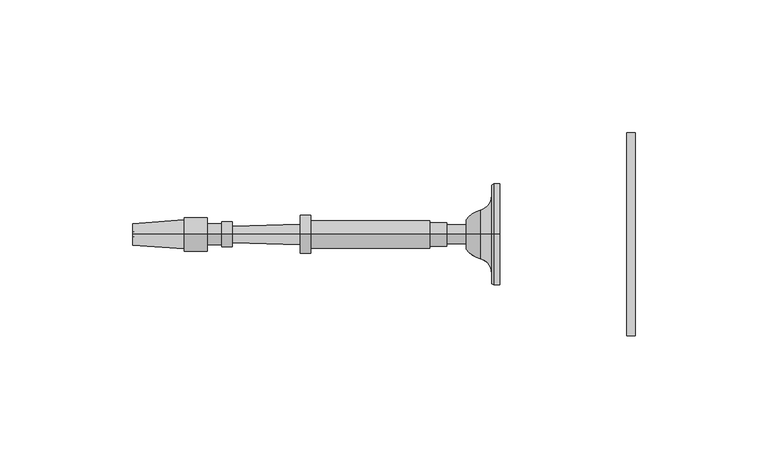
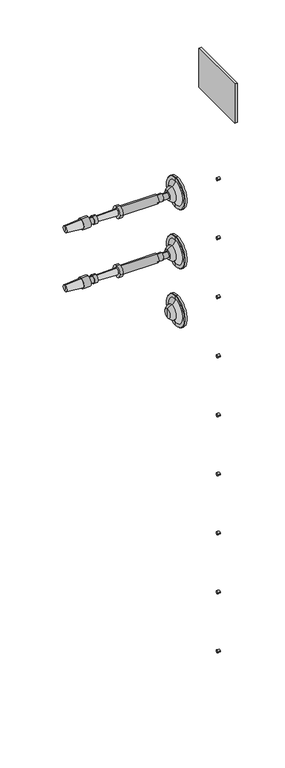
"""IFC4 building model written with IfcOpenShell, lengths in millimetres: railing geometry, RAILEASY CABLE RAILING CORNER TENSIONERS STAIR."""

from ifc_helpers import new_model, si_unit, point, frame, frame_2d, origin, place, context, project, spatial, polyline, circle_curve, ellipse_curve, trimmed, segment, composite_curve, outline, extrude, source, transform, mapped, element, save
from ifc_brep_helpers import plane_surface, cylinder_surface, revolved_surface, advanced_brep


def railing_b5b5f7ef(model_context):
    return source(origin(), model_context, "Body", "SolidModel", [
        extrude(outline(polyline([(4095.9188898, 16744.3866843), (4095.9188898, 16668.1866843), (4092.7438898, 16668.1866843), (4092.7438898, 16744.3866843), (4095.9188898, 16744.3866843)])), frame((0.0, 0.0, 33390.9789063), z_axis=(0.0, 0.0, 1.0), x_axis=(1.0, 0.0, 0.0)), (0.0, 0.0, 1.0), 50.8),
        extrude(outline(composite_curve([segment(trimmed(circle_curve(frame_2d((16706.2866843, 33295.7289062)), 1.5379197), [point((16707.824604, 33295.7289062))], [point((16704.7487645, 33295.7289062))], False, "CARTESIAN"), True, "CONTINUOUS"), segment(trimmed(circle_curve(frame_2d((16706.2866843, 33295.7289062)), 1.5379197), [point((16704.7487645, 33295.7289062))], [point((16707.824604, 33295.7289062))], False, "CARTESIAN"), True, "CONTINUOUS")], self_intersect=False)), frame((4092.7438898, 0.0, 0.0), z_axis=(1.0, 0.0, 0.0), x_axis=(0.0, 1.0, 0.0)), (0.0, 0.0, 1.0), 3.175),
        extrude(outline(composite_curve([segment(trimmed(circle_curve(frame_2d((16706.2866843, 33219.5289063)), 1.5379197), [point((16707.824604, 33219.5289063))], [point((16704.7487645, 33219.5289063))], False, "CARTESIAN"), True, "CONTINUOUS"), segment(trimmed(circle_curve(frame_2d((16706.2866843, 33219.5289063)), 1.5379197), [point((16704.7487645, 33219.5289063))], [point((16707.824604, 33219.5289063))], False, "CARTESIAN"), True, "CONTINUOUS")], self_intersect=False)), frame((4092.7438898, 0.0, 0.0), z_axis=(1.0, 0.0, 0.0), x_axis=(0.0, 1.0, 0.0)), (0.0, 0.0, 1.0), 3.175),
        extrude(outline(composite_curve([segment(trimmed(circle_curve(frame_2d((16706.2866843, 33143.3289062)), 1.5379197), [point((16707.824604, 33143.3289062))], [point((16704.7487645, 33143.3289062))], False, "CARTESIAN"), True, "CONTINUOUS"), segment(trimmed(circle_curve(frame_2d((16706.2866843, 33143.3289062)), 1.5379197), [point((16704.7487645, 33143.3289062))], [point((16707.824604, 33143.3289062))], False, "CARTESIAN"), True, "CONTINUOUS")], self_intersect=False)), frame((4092.7438898, 0.0, 0.0), z_axis=(1.0, 0.0, 0.0), x_axis=(0.0, 1.0, 0.0)), (0.0, 0.0, 1.0), 3.175),
        extrude(outline(composite_curve([segment(trimmed(circle_curve(frame_2d((16706.2866843, 33067.1289062)), 1.5379197), [point((16707.824604, 33067.1289062))], [point((16704.7487645, 33067.1289062))], False, "CARTESIAN"), True, "CONTINUOUS"), segment(trimmed(circle_curve(frame_2d((16706.2866843, 33067.1289062)), 1.5379197), [point((16704.7487645, 33067.1289062))], [point((16707.824604, 33067.1289062))], False, "CARTESIAN"), True, "CONTINUOUS")], self_intersect=False)), frame((4092.7438898, 0.0, 0.0), z_axis=(1.0, 0.0, 0.0), x_axis=(0.0, 1.0, 0.0)), (0.0, 0.0, 1.0), 3.175),
        extrude(outline(composite_curve([segment(trimmed(circle_curve(frame_2d((16706.2866843, 32990.9289062)), 1.5379197), [point((16707.824604, 32990.9289062))], [point((16704.7487645, 32990.9289062))], False, "CARTESIAN"), True, "CONTINUOUS"), segment(trimmed(circle_curve(frame_2d((16706.2866843, 32990.9289062)), 1.5379197), [point((16704.7487645, 32990.9289062))], [point((16707.824604, 32990.9289062))], False, "CARTESIAN"), True, "CONTINUOUS")], self_intersect=False)), frame((4092.7438898, 0.0, 0.0), z_axis=(1.0, 0.0, 0.0), x_axis=(0.0, 1.0, 0.0)), (0.0, 0.0, 1.0), 3.175),
        extrude(outline(composite_curve([segment(trimmed(circle_curve(frame_2d((16706.2866843, 32914.7289062)), 1.5379197), [point((16707.824604, 32914.7289062))], [point((16704.7487645, 32914.7289062))], False, "CARTESIAN"), True, "CONTINUOUS"), segment(trimmed(circle_curve(frame_2d((16706.2866843, 32914.7289062)), 1.5379197), [point((16704.7487645, 32914.7289062))], [point((16707.824604, 32914.7289062))], False, "CARTESIAN"), True, "CONTINUOUS")], self_intersect=False)), frame((4092.7438898, 0.0, 0.0), z_axis=(1.0, 0.0, 0.0), x_axis=(0.0, 1.0, 0.0)), (0.0, 0.0, 1.0), 3.175),
        extrude(outline(composite_curve([segment(trimmed(circle_curve(frame_2d((16706.2866843, 32838.5289063)), 1.5379197), [point((16707.824604, 32838.5289063))], [point((16704.7487645, 32838.5289063))], False, "CARTESIAN"), True, "CONTINUOUS"), segment(trimmed(circle_curve(frame_2d((16706.2866843, 32838.5289063)), 1.5379197), [point((16704.7487645, 32838.5289063))], [point((16707.824604, 32838.5289063))], False, "CARTESIAN"), True, "CONTINUOUS")], self_intersect=False)), frame((4092.7438898, 0.0, 0.0), z_axis=(1.0, 0.0, 0.0), x_axis=(0.0, 1.0, 0.0)), (0.0, 0.0, 1.0), 3.175),
        extrude(outline(composite_curve([segment(trimmed(circle_curve(frame_2d((16706.2866843, 32762.3289062)), 1.5379197), [point((16707.824604, 32762.3289062))], [point((16704.7487645, 32762.3289062))], False, "CARTESIAN"), True, "CONTINUOUS"), segment(trimmed(circle_curve(frame_2d((16706.2866843, 32762.3289062)), 1.5379197), [point((16704.7487645, 32762.3289062))], [point((16707.824604, 32762.3289062))], False, "CARTESIAN"), True, "CONTINUOUS")], self_intersect=False)), frame((4092.7438898, 0.0, 0.0), z_axis=(1.0, 0.0, 0.0), x_axis=(0.0, 1.0, 0.0)), (0.0, 0.0, 1.0), 3.175),
        extrude(outline(composite_curve([segment(trimmed(circle_curve(frame_2d((16706.2866843, 32686.1289062)), 1.5379197), [point((16707.824604, 32686.1289062))], [point((16704.7487645, 32686.1289062))], False, "CARTESIAN"), True, "CONTINUOUS"), segment(trimmed(circle_curve(frame_2d((16706.2866843, 32686.1289062)), 1.5379197), [point((16704.7487645, 32686.1289062))], [point((16707.824604, 32686.1289062))], False, "CARTESIAN"), True, "CONTINUOUS")], self_intersect=False)), frame((4092.7438898, 0.0, 0.0), z_axis=(1.0, 0.0, 0.0), x_axis=(0.0, 1.0, 0.0)), (0.0, 0.0, 1.0), 3.175),
        advanced_brep(
        [(4045.1015906, 16706.2866843, 33296.0001631), (4045.1015906, 16706.2866843, 33315.0501631), (4045.1015906, 16706.2866843, 33276.9501631), (4032.408954, 16706.2866843, 33290.4769785), (4032.408954, 16706.2866843, 33301.5233478), (4032.408954, 16706.2866843, 33296.0001631), (4037.6850504, 16706.2866843, 33286.8720381), (4037.6850504, 16706.2866843, 33305.1282881), (4042.0506754, 16706.2866843, 33281.2458254), (4042.0506754, 16706.2866843, 33310.7545009), (4042.0506754, 16706.2866843, 33277.3762941), (4042.0506754, 16706.2866843, 33314.6240321), (4042.7203406, 16706.2866843, 33276.9501631), (4042.7203406, 16706.2866843, 33315.0501631)],
        [
            (0, 1),
            (1, 2, circle_curve(frame((4045.1015906, 16706.2866843, 33296.0001631), z_axis=(1.0, 0.0, 0.0), x_axis=(0.0, 0.0, 1.0)), 19.05)),
            (2, 0),
            (2, 1, circle_curve(frame((4045.1015906, 16706.2866843, 33296.0001631), z_axis=(1.0, 0.0, 0.0), x_axis=(0.0, 0.0, 1.0)), 19.05)),
            (3, 4, circle_curve(frame((4032.408954, 16706.2866843, 33296.0001631), z_axis=(-1.0, 0.0, 0.0), x_axis=(0.0, 0.0, 1.0)), 5.5231846)),
            (4, 5),
            (5, 3),
            (4, 3, circle_curve(frame((4032.408954, 16706.2866843, 33296.0001631), z_axis=(-1.0, 0.0, 0.0), x_axis=(0.0, 0.0, 1.0)), 5.5231846)),
            (6, 7, circle_curve(frame((4037.6850504, 16706.2866843, 33296.0001631), z_axis=(-1.0, 0.0, 0.0), x_axis=(0.0, 0.0, 1.0)), 9.128125)),
            (7, 4, circle_curve(frame((4040.0094591, 16706.2866843, 33296.0628958), z_axis=(0.0, -1.0, 0.0), x_axis=(-1.0, 0.0, 0.0)), 9.3586438)),
            (3, 6, circle_curve(frame((4040.0094591, 16706.2866843, 33295.9374304), z_axis=(0.0, -1.0, 0.0), x_axis=(-1.0, 0.0, 0.0)), 9.3586438)),
            (7, 6, circle_curve(frame((4037.6850504, 16706.2866843, 33296.0001631), z_axis=(-1.0, 0.0, 0.0), x_axis=(0.0, 0.0, 1.0)), 9.128125)),
            (8, 9, circle_curve(frame((4042.0506754, 16706.2866843, 33296.0001631), z_axis=(-1.0, 0.0, 0.0), x_axis=(0.0, 0.0, 1.0)), 14.7543378)),
            (9, 7, circle_curve(frame((4036.2424634, 16706.2866843, 33310.7545009), z_axis=(0.0, 1.0, 0.0), x_axis=(-1.0, 0.0, 0.0)), 5.8082121)),
            (6, 8, circle_curve(frame((4036.2424634, 16706.2866843, 33281.2458254), z_axis=(0.0, 1.0, 0.0), x_axis=(-1.0, 0.0, 0.0)), 5.8082121)),
            (9, 8, circle_curve(frame((4042.0506754, 16706.2866843, 33296.0001631), z_axis=(-1.0, 0.0, 0.0), x_axis=(0.0, 0.0, 1.0)), 14.7543378)),
            (10, 11, circle_curve(frame((4042.0506754, 16706.2866843, 33296.0001631), z_axis=(-1.0, 0.0, 0.0), x_axis=(0.0, 0.0, 1.0)), 18.623869)),
            (11, 9),
            (8, 10),
            (11, 10, circle_curve(frame((4042.0506754, 16706.2866843, 33296.0001631), z_axis=(-1.0, 0.0, 0.0), x_axis=(0.0, 0.0, 1.0)), 18.623869)),
            (12, 13, circle_curve(frame((4042.7203406, 16706.2866843, 33296.0001631), z_axis=(-1.0, 0.0, 0.0), x_axis=(0.0, 0.0, 1.0)), 19.05)),
            (13, 11),
            (10, 12),
            (13, 12, circle_curve(frame((4042.7203406, 16706.2866843, 33296.0001631), z_axis=(-1.0, 0.0, 0.0), x_axis=(0.0, 0.0, 1.0)), 19.05)),
            (1, 13),
            (12, 2),
        ],
        [
            plane_surface(frame((4045.1015906, 16706.2866843, 33296.0001631), z_axis=(1.0, 0.0, 0.0), x_axis=(0.0, 0.0, 1.0))),
            plane_surface(frame((4032.408954, 16706.2866843, 33296.0001631), z_axis=(-1.0, 0.0, 0.0), x_axis=(0.0, 0.0, 1.0))),
            revolved_surface(trimmed(ellipse_curve(frame((4040.0094591, 16706.2866843, 33296.0628958), z_axis=(0.0, 1.0, 0.0), x_axis=(-1.0, 0.0, 0.0)), 9.3586438, 9.3586438), [point((4032.408954, 16706.2866843, 33301.5233478))], [point((4037.6850504, 16706.2866843, 33305.1282881))], True, "CARTESIAN"), (4045.1015906, 16706.2866843, 33296.0001631), (1.0, 0.0, 0.0)),
            revolved_surface(trimmed(ellipse_curve(frame((4036.2424634, 16706.2866843, 33310.7545009), z_axis=(0.0, -1.0, 0.0), x_axis=(-1.0, 0.0, 0.0)), 5.8082121, 5.8082121), [point((4037.6850504, 16706.2866843, 33305.1282881))], [point((4042.0506754, 16706.2866843, 33310.7545009))], True, "CARTESIAN"), (4045.1015906, 16706.2866843, 33296.0001631), (1.0, 0.0, 0.0)),
            plane_surface(frame((4042.0506754, 16706.2866843, 33296.0001631), z_axis=(-1.0, 0.0, 0.0), x_axis=(0.0, 0.0, 1.0))),
            revolved_surface(polyline([(4042.0506754, 16706.2866843, 33314.6240321), (4042.7203406, 16706.2866843, 33315.0501631)]), (4045.1015906, 16706.2866843, 33296.0001631), (1.0, 0.0, 0.0)),
            cylinder_surface(frame((4045.1015906, 16706.2866843, 33296.0001631), z_axis=(1.0, 0.0, 0.0), x_axis=(0.0, 0.0, 1.0)), 19.05),
        ],
        [
            (0, [[1, 2, 3]]),
            (0, [[-3, 4, -1]]),
            (1, [[5, 6, 7]]),
            (1, [[8, -7, -6]]),
            (2, [[9, 10, -5, 11]]),
            (2, [[12, -11, -8, -10]]),
            (3, [[13, 14, -9, 15]]),
            (3, [[16, -15, -12, -14]]),
            (4, [[17, 18, -13, 19]]),
            (4, [[20, -19, -16, -18]]),
            (5, [[21, 22, -17, 23]]),
            (5, [[24, -23, -20, -22]]),
            (6, [[-2, 25, -21, 26]]),
            (6, [[-4, -26, -24, -25]]),
        ],
    ),
        advanced_brep(
        [(4032.408954, 16706.2866843, 33292.4282881), (4032.408954, 16706.2866843, 33296.0001631), (4032.408954, 16706.2866843, 33299.5720381), (3907.4650648, 16706.2866843, 33296.0001631), (3907.1694004, 16706.2866843, 33291.9757028), (3907.1694004, 16706.2866843, 33300.0246235), (3926.5127644, 16706.2866843, 33290.5546072), (3926.5127644, 16706.2866843, 33301.445719), (3926.5127644, 16706.2866843, 33289.6616385), (3926.5127644, 16706.2866843, 33302.3386877), (3935.1447956, 16706.2866843, 33289.6616385), (3935.1447956, 16706.2866843, 33302.3386877), (3935.1447956, 16706.2866843, 33292.0428885), (3935.1447956, 16706.2866843, 33299.9574377), (3940.5026081, 16706.2866843, 33292.0428885), (3940.5026081, 16706.2866843, 33299.9574377), (3940.5026081, 16706.2866843, 33291.2491385), (3940.5026081, 16706.2866843, 33300.7511877), (3944.5705769, 16706.2866843, 33291.2491385), (3944.5705769, 16706.2866843, 33300.7511877), (3944.614664, 16706.2866843, 33292.8360262), (3944.614664, 16706.2866843, 33299.1643), (3970.0048672, 16706.2866843, 33292.1306319), (3970.0048672, 16706.2866843, 33299.8696944), (3970.0048672, 16706.2866843, 33288.8564131), (3970.0048672, 16706.2866843, 33303.1439131), (3973.9736172, 16706.2866843, 33288.8564131), (3973.9736172, 16706.2866843, 33303.1439131), (3973.9736172, 16706.2866843, 33290.8407881), (3973.9736172, 16706.2866843, 33301.1595381), (4018.7212735, 16706.2866843, 33290.8407881), (4018.7212735, 16706.2866843, 33301.1595381), (4018.7212735, 16706.2866843, 33291.6345381), (4018.7212735, 16706.2866843, 33300.3657881), (4025.0712735, 16706.2866843, 33291.6345381), (4025.0712735, 16706.2866843, 33300.3657881), (4025.0712735, 16706.2866843, 33292.4282881), (4025.0712735, 16706.2866843, 33299.5720381)],
        [
            (0, 1),
            (1, 2),
            (2, 0, circle_curve(frame((4032.408954, 16706.2866843, 33296.0001631), z_axis=(1.0, 0.0, 0.0), x_axis=(0.0, 0.0, 1.0000000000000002)), 3.571875)),
            (0, 2, circle_curve(frame((4032.408954, 16706.2866843, 33296.0001631), z_axis=(1.0, 0.0, 0.0), x_axis=(0.0, 0.0, 1.0000000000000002)), 3.571875)),
            (3, 4),
            (4, 5, circle_curve(frame((3907.1694004, 16706.2866843, 33296.0001631), z_axis=(-1.0, 0.0, 0.0), x_axis=(0.0, 0.0, 1.0000000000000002)), 4.0244604)),
            (5, 3),
            (5, 4, circle_curve(frame((3907.1694004, 16706.2866843, 33296.0001631), z_axis=(-1.0, 0.0, 0.0), x_axis=(0.0, 0.0, 1.0000000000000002)), 4.0244604)),
            (4, 6),
            (6, 7, circle_curve(frame((3926.5127644, 16706.2866843, 33296.0001631), z_axis=(-1.0, 0.0, 0.0), x_axis=(0.0, 0.0, 1.0000000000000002)), 5.4455559)),
            (7, 5),
            (7, 6, circle_curve(frame((3926.5127644, 16706.2866843, 33296.0001631), z_axis=(-1.0, 0.0, 0.0), x_axis=(0.0, 0.0, 1.0000000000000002)), 5.4455559)),
            (6, 8),
            (8, 9, circle_curve(frame((3926.5127644, 16706.2866843, 33296.0001631), z_axis=(-1.0, 0.0, 0.0), x_axis=(0.0, 0.0, 1.0000000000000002)), 6.3385246)),
            (9, 7),
            (9, 8, circle_curve(frame((3926.5127644, 16706.2866843, 33296.0001631), z_axis=(-1.0, 0.0, 0.0), x_axis=(0.0, 0.0, 1.0000000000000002)), 6.3385246)),
            (8, 10),
            (10, 11, circle_curve(frame((3935.1447956, 16706.2866843, 33296.0001631), z_axis=(-1.0, 0.0, 0.0), x_axis=(0.0, 0.0, 1.0000000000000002)), 6.3385246)),
            (11, 9),
            (11, 10, circle_curve(frame((3935.1447956, 16706.2866843, 33296.0001631), z_axis=(-1.0, 0.0, 0.0), x_axis=(0.0, 0.0, 1.0000000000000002)), 6.3385246)),
            (10, 12),
            (12, 13, circle_curve(frame((3935.1447956, 16706.2866843, 33296.0001631), z_axis=(-1.0, 0.0, 0.0), x_axis=(0.0, 0.0, 1.0000000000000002)), 3.9572746)),
            (13, 11),
            (13, 12, circle_curve(frame((3935.1447956, 16706.2866843, 33296.0001631), z_axis=(-1.0, 0.0, 0.0), x_axis=(0.0, 0.0, 1.0000000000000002)), 3.9572746)),
            (12, 14),
            (14, 15, circle_curve(frame((3940.5026081, 16706.2866843, 33296.0001631), z_axis=(-1.0, 0.0, 0.0), x_axis=(0.0, 0.0, 1.0000000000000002)), 3.9572746)),
            (15, 13),
            (15, 14, circle_curve(frame((3940.5026081, 16706.2866843, 33296.0001631), z_axis=(-1.0, 0.0, 0.0), x_axis=(0.0, 0.0, 1.0000000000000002)), 3.9572746)),
            (14, 16),
            (16, 17, circle_curve(frame((3940.5026081, 16706.2866843, 33296.0001631), z_axis=(-1.0, 0.0, 0.0), x_axis=(0.0, 0.0, 1.0000000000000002)), 4.7510246)),
            (17, 15),
            (17, 16, circle_curve(frame((3940.5026081, 16706.2866843, 33296.0001631), z_axis=(-1.0, 0.0, 0.0), x_axis=(0.0, 0.0, 1.0000000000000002)), 4.7510246)),
            (16, 18),
            (18, 19, circle_curve(frame((3944.5705769, 16706.2866843, 33296.0001631), z_axis=(-1.0, 0.0, 0.0), x_axis=(0.0, 0.0, 1.0000000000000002)), 4.7510246)),
            (19, 17),
            (19, 18, circle_curve(frame((3944.5705769, 16706.2866843, 33296.0001631), z_axis=(-1.0, 0.0, 0.0), x_axis=(0.0, 0.0, 1.0000000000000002)), 4.7510246)),
            (18, 20),
            (20, 21, circle_curve(frame((3944.614664, 16706.2866843, 33296.0001631), z_axis=(-1.0, 0.0, 0.0), x_axis=(0.0, 0.0, 1.0000000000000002)), 3.1641369)),
            (21, 19),
            (21, 20, circle_curve(frame((3944.614664, 16706.2866843, 33296.0001631), z_axis=(-1.0, 0.0, 0.0), x_axis=(0.0, 0.0, 1.0000000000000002)), 3.1641369)),
            (20, 22),
            (22, 23, circle_curve(frame((3970.0048672, 16706.2866843, 33296.0001631), z_axis=(-1.0, 0.0, 0.0), x_axis=(0.0, 0.0, 1.0000000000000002)), 3.8695313)),
            (23, 21),
            (23, 22, circle_curve(frame((3970.0048672, 16706.2866843, 33296.0001631), z_axis=(-1.0, 0.0, 0.0), x_axis=(0.0, 0.0, 1.0000000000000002)), 3.8695313)),
            (22, 24),
            (24, 25, circle_curve(frame((3970.0048672, 16706.2866843, 33296.0001631), z_axis=(-1.0, 0.0, 0.0), x_axis=(0.0, 0.0, 1.0000000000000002)), 7.14375)),
            (25, 23),
            (25, 24, circle_curve(frame((3970.0048672, 16706.2866843, 33296.0001631), z_axis=(-1.0, 0.0, 0.0), x_axis=(0.0, 0.0, 1.0000000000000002)), 7.14375)),
            (24, 26),
            (26, 27, circle_curve(frame((3973.9736172, 16706.2866843, 33296.0001631), z_axis=(-1.0, 0.0, 0.0), x_axis=(0.0, 0.0, 1.0000000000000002)), 7.14375)),
            (27, 25),
            (27, 26, circle_curve(frame((3973.9736172, 16706.2866843, 33296.0001631), z_axis=(-1.0, 0.0, 0.0), x_axis=(0.0, 0.0, 1.0000000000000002)), 7.14375)),
            (26, 28),
            (28, 29, circle_curve(frame((3973.9736172, 16706.2866843, 33296.0001631), z_axis=(-1.0, 0.0, 0.0), x_axis=(0.0, 0.0, 1.0000000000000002)), 5.159375)),
            (29, 27),
            (29, 28, circle_curve(frame((3973.9736172, 16706.2866843, 33296.0001631), z_axis=(-1.0, 0.0, 0.0), x_axis=(0.0, 0.0, 1.0000000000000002)), 5.159375)),
            (28, 30),
            (30, 31, circle_curve(frame((4018.7212735, 16706.2866843, 33296.0001631), z_axis=(-1.0, 0.0, 0.0), x_axis=(0.0, 0.0, 1.0000000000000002)), 5.159375)),
            (31, 29),
            (31, 30, circle_curve(frame((4018.7212735, 16706.2866843, 33296.0001631), z_axis=(-1.0, 0.0, 0.0), x_axis=(0.0, 0.0, 1.0000000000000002)), 5.159375)),
            (30, 32),
            (32, 33, circle_curve(frame((4018.7212735, 16706.2866843, 33296.0001631), z_axis=(-1.0, 0.0, 0.0), x_axis=(0.0, 0.0, 1.0000000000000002)), 4.365625)),
            (33, 31),
            (33, 32, circle_curve(frame((4018.7212735, 16706.2866843, 33296.0001631), z_axis=(-1.0, 0.0, 0.0), x_axis=(0.0, 0.0, 1.0000000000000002)), 4.365625)),
            (32, 34),
            (34, 35, circle_curve(frame((4025.0712735, 16706.2866843, 33296.0001631), z_axis=(-1.0, 0.0, 0.0), x_axis=(0.0, 0.0, 1.0000000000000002)), 4.365625)),
            (35, 33),
            (35, 34, circle_curve(frame((4025.0712735, 16706.2866843, 33296.0001631), z_axis=(-1.0, 0.0, 0.0), x_axis=(0.0, 0.0, 1.0000000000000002)), 4.365625)),
            (34, 36),
            (36, 37, circle_curve(frame((4025.0712735, 16706.2866843, 33296.0001631), z_axis=(-1.0, 0.0, 0.0), x_axis=(0.0, 0.0, 1.0000000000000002)), 3.571875)),
            (37, 35),
            (37, 36, circle_curve(frame((4025.0712735, 16706.2866843, 33296.0001631), z_axis=(-1.0, 0.0, 0.0), x_axis=(0.0, 0.0, 1.0000000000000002)), 3.571875)),
            (36, 0),
            (2, 37),
        ],
        [
            plane_surface(frame((4032.408954, 16706.2866843, 33296.0001631), z_axis=(1.0, 0.0, 0.0), x_axis=(0.0, 0.0, 1.0))),
            revolved_surface(polyline([(3907.1694004, 16706.2866843, 33300.0246235), (3907.4650648, 16706.2866843, 33296.0001631)]), (3907.4650648, 16706.2866843, 33296.0001631), (-1.0, 0.0, 0.0)),
            revolved_surface(polyline([(3926.5127644, 16706.2866843, 33301.445719), (3907.1694004, 16706.2866843, 33300.0246235)]), (3907.4650648, 16706.2866843, 33296.0001631), (-1.0, 0.0, 0.0)),
            plane_surface(frame((3926.5127644, 16706.2866843, 33296.0001631), z_axis=(-1.0, 0.0, 0.0), x_axis=(0.0, 0.0, 1.0))),
            cylinder_surface(frame((3907.4650648, 16706.2866843, 33296.0001631), z_axis=(-1.0, 0.0, 0.0), x_axis=(0.0, 0.0, 1.0000000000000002)), 6.3385246),
            plane_surface(frame((3935.1447956, 16706.2866843, 33296.0001631), z_axis=(1.0, 0.0, 0.0), x_axis=(0.0, 0.0, 1.0))),
            cylinder_surface(frame((3907.4650648, 16706.2866843, 33296.0001631), z_axis=(-1.0, 0.0, 0.0), x_axis=(0.0, 0.0, 1.0000000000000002)), 3.9572746),
            plane_surface(frame((3940.5026081, 16706.2866843, 33296.0001631), z_axis=(-1.0, 0.0, 0.0), x_axis=(0.0, 0.0, 1.0))),
            cylinder_surface(frame((3907.4650648, 16706.2866843, 33296.0001631), z_axis=(-1.0, 0.0, 0.0), x_axis=(0.0, 0.0, 1.0000000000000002)), 4.7510246),
            plane_surface(frame((3944.614664, 16706.2866843, 33296.0001631), z_axis=(1.0, 0.0, 0.0), x_axis=(0.0, 0.0, 1.0))),
            revolved_surface(polyline([(3970.0048672, 16706.2866843, 33299.8696944), (3944.614664, 16706.2866843, 33299.1643)]), (3907.4650648, 16706.2866843, 33296.0001631), (-1.0, 0.0, 0.0)),
            plane_surface(frame((3970.0048672, 16706.2866843, 33296.0001631), z_axis=(-1.0, 0.0, 0.0), x_axis=(0.0, 0.0, 1.0))),
            cylinder_surface(frame((3907.4650648, 16706.2866843, 33296.0001631), z_axis=(-1.0, 0.0, 0.0), x_axis=(0.0, 0.0, 1.0000000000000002)), 7.14375),
            plane_surface(frame((3973.9736172, 16706.2866843, 33296.0001631), z_axis=(1.0, 0.0, 0.0), x_axis=(0.0, 0.0, 1.0))),
            cylinder_surface(frame((3907.4650648, 16706.2866843, 33296.0001631), z_axis=(-1.0, 0.0, 0.0), x_axis=(0.0, 0.0, 1.0000000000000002)), 5.159375),
            plane_surface(frame((4018.7212735, 16706.2866843, 33296.0001631), z_axis=(1.0, 0.0, 0.0), x_axis=(0.0, 0.0, 1.0))),
            cylinder_surface(frame((3907.4650648, 16706.2866843, 33296.0001631), z_axis=(-1.0, 0.0, 0.0), x_axis=(0.0, 0.0, 1.0000000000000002)), 4.365625),
            plane_surface(frame((4025.0712735, 16706.2866843, 33296.0001631), z_axis=(1.0, 0.0, 0.0), x_axis=(0.0, 0.0, 1.0))),
            cylinder_surface(frame((3907.4650648, 16706.2866843, 33296.0001631), z_axis=(-1.0, 0.0, 0.0), x_axis=(0.0, 0.0, 1.0000000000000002)), 3.571875),
        ],
        [
            (0, [[1, 2, 3]]),
            (0, [[-2, -1, 4]]),
            (1, [[5, 6, 7]]),
            (1, [[-7, 8, -5]]),
            (2, [[9, 10, 11, -6]]),
            (2, [[-11, 12, -9, -8]]),
            (3, [[13, 14, 15, -10]]),
            (3, [[-15, 16, -13, -12]]),
            (4, [[17, 18, 19, -14]]),
            (4, [[-19, 20, -17, -16]]),
            (5, [[21, 22, 23, -18]]),
            (5, [[-23, 24, -21, -20]]),
            (6, [[25, 26, 27, -22]]),
            (6, [[-27, 28, -25, -24]]),
            (7, [[29, 30, 31, -26]]),
            (7, [[-31, 32, -29, -28]]),
            (8, [[33, 34, 35, -30]]),
            (8, [[-35, 36, -33, -32]]),
            (9, [[37, 38, 39, -34]]),
            (9, [[-39, 40, -37, -36]]),
            (10, [[41, 42, 43, -38]]),
            (10, [[-43, 44, -41, -40]]),
            (11, [[45, 46, 47, -42]]),
            (11, [[-47, 48, -45, -44]]),
            (12, [[49, 50, 51, -46]]),
            (12, [[-51, 52, -49, -48]]),
            (13, [[53, 54, 55, -50]]),
            (13, [[-55, 56, -53, -52]]),
            (14, [[57, 58, 59, -54]]),
            (14, [[-59, 60, -57, -56]]),
            (15, [[61, 62, 63, -58]]),
            (15, [[-63, 64, -61, -60]]),
            (16, [[65, 66, 67, -62]]),
            (16, [[-67, 68, -65, -64]]),
            (17, [[69, 70, 71, -66]]),
            (17, [[-71, 72, -69, -68]]),
            (18, [[73, -3, 74, -70]]),
            (18, [[-74, -4, -73, -72]]),
        ],
    ),
        advanced_brep(
        [(4045.1015906, 16706.2866843, 33219.8001631), (4045.1015906, 16706.2866843, 33238.8501631), (4045.1015906, 16706.2866843, 33200.7501631), (4032.408954, 16706.2866843, 33214.2769785), (4032.408954, 16706.2866843, 33225.3233478), (4032.408954, 16706.2866843, 33219.8001631), (4037.6850504, 16706.2866843, 33210.6720381), (4037.6850504, 16706.2866843, 33228.9282881), (4042.0506754, 16706.2866843, 33205.0458254), (4042.0506754, 16706.2866843, 33234.5545009), (4042.0506754, 16706.2866843, 33201.1762941), (4042.0506754, 16706.2866843, 33238.4240321), (4042.7203406, 16706.2866843, 33200.7501631), (4042.7203406, 16706.2866843, 33238.8501631)],
        [
            (0, 1),
            (1, 2, circle_curve(frame((4045.1015906, 16706.2866843, 33219.8001631), z_axis=(1.0, 0.0, 0.0), x_axis=(0.0, 0.0, 1.0)), 19.05)),
            (2, 0),
            (2, 1, circle_curve(frame((4045.1015906, 16706.2866843, 33219.8001631), z_axis=(1.0, 0.0, 0.0), x_axis=(0.0, 0.0, 1.0)), 19.05)),
            (3, 4, circle_curve(frame((4032.408954, 16706.2866843, 33219.8001631), z_axis=(-1.0, 0.0, 0.0), x_axis=(0.0, 0.0, 1.0)), 5.5231846)),
            (4, 5),
            (5, 3),
            (4, 3, circle_curve(frame((4032.408954, 16706.2866843, 33219.8001631), z_axis=(-1.0, 0.0, 0.0), x_axis=(0.0, 0.0, 1.0)), 5.5231846)),
            (6, 7, circle_curve(frame((4037.6850504, 16706.2866843, 33219.8001631), z_axis=(-1.0, 0.0, 0.0), x_axis=(0.0, 0.0, 1.0)), 9.128125)),
            (7, 4, circle_curve(frame((4040.0094591, 16706.2866843, 33219.8628958), z_axis=(0.0, -1.0, 0.0), x_axis=(-1.0, 0.0, 0.0)), 9.3586438)),
            (3, 6, circle_curve(frame((4040.0094591, 16706.2866843, 33219.7374304), z_axis=(0.0, -1.0, 0.0), x_axis=(-1.0, 0.0, 0.0)), 9.3586438)),
            (7, 6, circle_curve(frame((4037.6850504, 16706.2866843, 33219.8001631), z_axis=(-1.0, 0.0, 0.0), x_axis=(0.0, 0.0, 1.0)), 9.128125)),
            (8, 9, circle_curve(frame((4042.0506754, 16706.2866843, 33219.8001631), z_axis=(-1.0, 0.0, 0.0), x_axis=(0.0, 0.0, 1.0)), 14.7543378)),
            (9, 7, circle_curve(frame((4036.2424634, 16706.2866843, 33234.5545009), z_axis=(0.0, 1.0, 0.0), x_axis=(-1.0, 0.0, 0.0)), 5.8082121)),
            (6, 8, circle_curve(frame((4036.2424634, 16706.2866843, 33205.0458254), z_axis=(0.0, 1.0, 0.0), x_axis=(-1.0, 0.0, 0.0)), 5.8082121)),
            (9, 8, circle_curve(frame((4042.0506754, 16706.2866843, 33219.8001631), z_axis=(-1.0, 0.0, 0.0), x_axis=(0.0, 0.0, 1.0)), 14.7543378)),
            (10, 11, circle_curve(frame((4042.0506754, 16706.2866843, 33219.8001631), z_axis=(-1.0, 0.0, 0.0), x_axis=(0.0, 0.0, 1.0)), 18.623869)),
            (11, 9),
            (8, 10),
            (11, 10, circle_curve(frame((4042.0506754, 16706.2866843, 33219.8001631), z_axis=(-1.0, 0.0, 0.0), x_axis=(0.0, 0.0, 1.0)), 18.623869)),
            (12, 13, circle_curve(frame((4042.7203406, 16706.2866843, 33219.8001631), z_axis=(-1.0, 0.0, 0.0), x_axis=(0.0, 0.0, 1.0)), 19.05)),
            (13, 11),
            (10, 12),
            (13, 12, circle_curve(frame((4042.7203406, 16706.2866843, 33219.8001631), z_axis=(-1.0, 0.0, 0.0), x_axis=(0.0, 0.0, 1.0)), 19.05)),
            (1, 13),
            (12, 2),
        ],
        [
            plane_surface(frame((4045.1015906, 16706.2866843, 33219.8001631), z_axis=(1.0, 0.0, 0.0), x_axis=(0.0, 0.0, 1.0))),
            plane_surface(frame((4032.408954, 16706.2866843, 33219.8001631), z_axis=(-1.0, 0.0, 0.0), x_axis=(0.0, 0.0, 1.0))),
            revolved_surface(trimmed(ellipse_curve(frame((4040.0094591, 16706.2866843, 33219.8628958), z_axis=(0.0, 1.0, 0.0), x_axis=(-1.0, 0.0, 0.0)), 9.3586438, 9.3586438), [point((4032.408954, 16706.2866843, 33225.3233478))], [point((4037.6850504, 16706.2866843, 33228.9282881))], True, "CARTESIAN"), (4045.1015906, 16706.2866843, 33219.8001631), (1.0, 0.0, 0.0)),
            revolved_surface(trimmed(ellipse_curve(frame((4036.2424634, 16706.2866843, 33234.5545009), z_axis=(0.0, -1.0, 0.0), x_axis=(-1.0, 0.0, 0.0)), 5.8082121, 5.8082121), [point((4037.6850504, 16706.2866843, 33228.9282881))], [point((4042.0506754, 16706.2866843, 33234.5545009))], True, "CARTESIAN"), (4045.1015906, 16706.2866843, 33219.8001631), (1.0, 0.0, 0.0)),
            plane_surface(frame((4042.0506754, 16706.2866843, 33219.8001631), z_axis=(-1.0, 0.0, 0.0), x_axis=(0.0, 0.0, 1.0))),
            revolved_surface(polyline([(4042.0506754, 16706.2866843, 33238.4240321), (4042.7203406, 16706.2866843, 33238.8501631)]), (4045.1015906, 16706.2866843, 33219.8001631), (1.0, 0.0, 0.0)),
            cylinder_surface(frame((4045.1015906, 16706.2866843, 33219.8001631), z_axis=(1.0, 0.0, 0.0), x_axis=(0.0, 0.0, 1.0)), 19.05),
        ],
        [
            (0, [[1, 2, 3]]),
            (0, [[-3, 4, -1]]),
            (1, [[5, 6, 7]]),
            (1, [[8, -7, -6]]),
            (2, [[9, 10, -5, 11]]),
            (2, [[12, -11, -8, -10]]),
            (3, [[13, 14, -9, 15]]),
            (3, [[16, -15, -12, -14]]),
            (4, [[17, 18, -13, 19]]),
            (4, [[20, -19, -16, -18]]),
            (5, [[21, 22, -17, 23]]),
            (5, [[24, -23, -20, -22]]),
            (6, [[-2, 25, -21, 26]]),
            (6, [[-4, -26, -24, -25]]),
        ],
    ),
        advanced_brep(
        [(4032.408954, 16706.2866843, 33216.2282881), (4032.408954, 16706.2866843, 33219.8001631), (4032.408954, 16706.2866843, 33223.3720381), (3907.4650648, 16706.2866843, 33219.8001631), (3907.1694004, 16706.2866843, 33215.7757028), (3907.1694004, 16706.2866843, 33223.8246235), (3926.5127644, 16706.2866843, 33214.3546072), (3926.5127644, 16706.2866843, 33225.245719), (3926.5127644, 16706.2866843, 33213.4616385), (3926.5127644, 16706.2866843, 33226.1386877), (3935.1447956, 16706.2866843, 33213.4616385), (3935.1447956, 16706.2866843, 33226.1386877), (3935.1447956, 16706.2866843, 33215.8428885), (3935.1447956, 16706.2866843, 33223.7574377), (3940.5026081, 16706.2866843, 33215.8428885), (3940.5026081, 16706.2866843, 33223.7574377), (3940.5026081, 16706.2866843, 33215.0491385), (3940.5026081, 16706.2866843, 33224.5511877), (3944.5705769, 16706.2866843, 33215.0491385), (3944.5705769, 16706.2866843, 33224.5511877), (3944.614664, 16706.2866843, 33216.6360262), (3944.614664, 16706.2866843, 33222.9643), (3970.0048672, 16706.2866843, 33215.9306319), (3970.0048672, 16706.2866843, 33223.6696944), (3970.0048672, 16706.2866843, 33212.6564131), (3970.0048672, 16706.2866843, 33226.9439131), (3973.9736172, 16706.2866843, 33212.6564131), (3973.9736172, 16706.2866843, 33226.9439131), (3973.9736172, 16706.2866843, 33214.6407881), (3973.9736172, 16706.2866843, 33224.9595381), (4018.7212735, 16706.2866843, 33214.6407881), (4018.7212735, 16706.2866843, 33224.9595381), (4018.7212735, 16706.2866843, 33215.4345381), (4018.7212735, 16706.2866843, 33224.1657881), (4025.0712735, 16706.2866843, 33215.4345381), (4025.0712735, 16706.2866843, 33224.1657881), (4025.0712735, 16706.2866843, 33216.2282881), (4025.0712735, 16706.2866843, 33223.3720381)],
        [
            (0, 1),
            (1, 2),
            (2, 0, circle_curve(frame((4032.408954, 16706.2866843, 33219.8001631), z_axis=(1.0, 0.0, 0.0), x_axis=(0.0, 0.0, 1.0000000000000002)), 3.571875)),
            (0, 2, circle_curve(frame((4032.408954, 16706.2866843, 33219.8001631), z_axis=(1.0, 0.0, 0.0), x_axis=(0.0, 0.0, 1.0000000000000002)), 3.571875)),
            (3, 4),
            (4, 5, circle_curve(frame((3907.1694004, 16706.2866843, 33219.8001631), z_axis=(-1.0, 0.0, 0.0), x_axis=(0.0, 0.0, 1.0000000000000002)), 4.0244604)),
            (5, 3),
            (5, 4, circle_curve(frame((3907.1694004, 16706.2866843, 33219.8001631), z_axis=(-1.0, 0.0, 0.0), x_axis=(0.0, 0.0, 1.0000000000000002)), 4.0244604)),
            (4, 6),
            (6, 7, circle_curve(frame((3926.5127644, 16706.2866843, 33219.8001631), z_axis=(-1.0, 0.0, 0.0), x_axis=(0.0, 0.0, 1.0000000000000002)), 5.4455559)),
            (7, 5),
            (7, 6, circle_curve(frame((3926.5127644, 16706.2866843, 33219.8001631), z_axis=(-1.0, 0.0, 0.0), x_axis=(0.0, 0.0, 1.0000000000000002)), 5.4455559)),
            (6, 8),
            (8, 9, circle_curve(frame((3926.5127644, 16706.2866843, 33219.8001631), z_axis=(-1.0, 0.0, 0.0), x_axis=(0.0, 0.0, 1.0000000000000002)), 6.3385246)),
            (9, 7),
            (9, 8, circle_curve(frame((3926.5127644, 16706.2866843, 33219.8001631), z_axis=(-1.0, 0.0, 0.0), x_axis=(0.0, 0.0, 1.0000000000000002)), 6.3385246)),
            (8, 10),
            (10, 11, circle_curve(frame((3935.1447956, 16706.2866843, 33219.8001631), z_axis=(-1.0, 0.0, 0.0), x_axis=(0.0, 0.0, 1.0000000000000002)), 6.3385246)),
            (11, 9),
            (11, 10, circle_curve(frame((3935.1447956, 16706.2866843, 33219.8001631), z_axis=(-1.0, 0.0, 0.0), x_axis=(0.0, 0.0, 1.0000000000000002)), 6.3385246)),
            (10, 12),
            (12, 13, circle_curve(frame((3935.1447956, 16706.2866843, 33219.8001631), z_axis=(-1.0, 0.0, 0.0), x_axis=(0.0, 0.0, 1.0000000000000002)), 3.9572746)),
            (13, 11),
            (13, 12, circle_curve(frame((3935.1447956, 16706.2866843, 33219.8001631), z_axis=(-1.0, 0.0, 0.0), x_axis=(0.0, 0.0, 1.0000000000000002)), 3.9572746)),
            (12, 14),
            (14, 15, circle_curve(frame((3940.5026081, 16706.2866843, 33219.8001631), z_axis=(-1.0, 0.0, 0.0), x_axis=(0.0, 0.0, 1.0000000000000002)), 3.9572746)),
            (15, 13),
            (15, 14, circle_curve(frame((3940.5026081, 16706.2866843, 33219.8001631), z_axis=(-1.0, 0.0, 0.0), x_axis=(0.0, 0.0, 1.0000000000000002)), 3.9572746)),
            (14, 16),
            (16, 17, circle_curve(frame((3940.5026081, 16706.2866843, 33219.8001631), z_axis=(-1.0, 0.0, 0.0), x_axis=(0.0, 0.0, 1.0000000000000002)), 4.7510246)),
            (17, 15),
            (17, 16, circle_curve(frame((3940.5026081, 16706.2866843, 33219.8001631), z_axis=(-1.0, 0.0, 0.0), x_axis=(0.0, 0.0, 1.0000000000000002)), 4.7510246)),
            (16, 18),
            (18, 19, circle_curve(frame((3944.5705769, 16706.2866843, 33219.8001631), z_axis=(-1.0, 0.0, 0.0), x_axis=(0.0, 0.0, 1.0000000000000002)), 4.7510246)),
            (19, 17),
            (19, 18, circle_curve(frame((3944.5705769, 16706.2866843, 33219.8001631), z_axis=(-1.0, 0.0, 0.0), x_axis=(0.0, 0.0, 1.0000000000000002)), 4.7510246)),
            (18, 20),
            (20, 21, circle_curve(frame((3944.614664, 16706.2866843, 33219.8001631), z_axis=(-1.0, 0.0, 0.0), x_axis=(0.0, 0.0, 1.0000000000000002)), 3.1641369)),
            (21, 19),
            (21, 20, circle_curve(frame((3944.614664, 16706.2866843, 33219.8001631), z_axis=(-1.0, 0.0, 0.0), x_axis=(0.0, 0.0, 1.0000000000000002)), 3.1641369)),
            (20, 22),
            (22, 23, circle_curve(frame((3970.0048672, 16706.2866843, 33219.8001631), z_axis=(-1.0, 0.0, 0.0), x_axis=(0.0, 0.0, 1.0000000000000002)), 3.8695313)),
            (23, 21),
            (23, 22, circle_curve(frame((3970.0048672, 16706.2866843, 33219.8001631), z_axis=(-1.0, 0.0, 0.0), x_axis=(0.0, 0.0, 1.0000000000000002)), 3.8695313)),
            (22, 24),
            (24, 25, circle_curve(frame((3970.0048672, 16706.2866843, 33219.8001631), z_axis=(-1.0, 0.0, 0.0), x_axis=(0.0, 0.0, 1.0000000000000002)), 7.14375)),
            (25, 23),
            (25, 24, circle_curve(frame((3970.0048672, 16706.2866843, 33219.8001631), z_axis=(-1.0, 0.0, 0.0), x_axis=(0.0, 0.0, 1.0000000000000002)), 7.14375)),
            (24, 26),
            (26, 27, circle_curve(frame((3973.9736172, 16706.2866843, 33219.8001631), z_axis=(-1.0, 0.0, 0.0), x_axis=(0.0, 0.0, 1.0000000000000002)), 7.14375)),
            (27, 25),
            (27, 26, circle_curve(frame((3973.9736172, 16706.2866843, 33219.8001631), z_axis=(-1.0, 0.0, 0.0), x_axis=(0.0, 0.0, 1.0000000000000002)), 7.14375)),
            (26, 28),
            (28, 29, circle_curve(frame((3973.9736172, 16706.2866843, 33219.8001631), z_axis=(-1.0, 0.0, 0.0), x_axis=(0.0, 0.0, 1.0000000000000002)), 5.159375)),
            (29, 27),
            (29, 28, circle_curve(frame((3973.9736172, 16706.2866843, 33219.8001631), z_axis=(-1.0, 0.0, 0.0), x_axis=(0.0, 0.0, 1.0000000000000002)), 5.159375)),
            (28, 30),
            (30, 31, circle_curve(frame((4018.7212735, 16706.2866843, 33219.8001631), z_axis=(-1.0, 0.0, 0.0), x_axis=(0.0, 0.0, 1.0000000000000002)), 5.159375)),
            (31, 29),
            (31, 30, circle_curve(frame((4018.7212735, 16706.2866843, 33219.8001631), z_axis=(-1.0, 0.0, 0.0), x_axis=(0.0, 0.0, 1.0000000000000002)), 5.159375)),
            (30, 32),
            (32, 33, circle_curve(frame((4018.7212735, 16706.2866843, 33219.8001631), z_axis=(-1.0, 0.0, 0.0), x_axis=(0.0, 0.0, 1.0000000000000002)), 4.365625)),
            (33, 31),
            (33, 32, circle_curve(frame((4018.7212735, 16706.2866843, 33219.8001631), z_axis=(-1.0, 0.0, 0.0), x_axis=(0.0, 0.0, 1.0000000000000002)), 4.365625)),
            (32, 34),
            (34, 35, circle_curve(frame((4025.0712735, 16706.2866843, 33219.8001631), z_axis=(-1.0, 0.0, 0.0), x_axis=(0.0, 0.0, 1.0000000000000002)), 4.365625)),
            (35, 33),
            (35, 34, circle_curve(frame((4025.0712735, 16706.2866843, 33219.8001631), z_axis=(-1.0, 0.0, 0.0), x_axis=(0.0, 0.0, 1.0000000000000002)), 4.365625)),
            (34, 36),
            (36, 37, circle_curve(frame((4025.0712735, 16706.2866843, 33219.8001631), z_axis=(-1.0, 0.0, 0.0), x_axis=(0.0, 0.0, 1.0000000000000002)), 3.571875)),
            (37, 35),
            (37, 36, circle_curve(frame((4025.0712735, 16706.2866843, 33219.8001631), z_axis=(-1.0, 0.0, 0.0), x_axis=(0.0, 0.0, 1.0000000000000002)), 3.571875)),
            (36, 0),
            (2, 37),
        ],
        [
            plane_surface(frame((4032.408954, 16706.2866843, 33219.8001631), z_axis=(1.0, 0.0, 0.0), x_axis=(0.0, 0.0, 1.0))),
            revolved_surface(polyline([(3907.1694004, 16706.2866843, 33223.8246235), (3907.4650648, 16706.2866843, 33219.8001631)]), (3907.4650648, 16706.2866843, 33219.8001631), (-1.0, 0.0, 0.0)),
            revolved_surface(polyline([(3926.5127644, 16706.2866843, 33225.245719), (3907.1694004, 16706.2866843, 33223.8246235)]), (3907.4650648, 16706.2866843, 33219.8001631), (-1.0, 0.0, 0.0)),
            plane_surface(frame((3926.5127644, 16706.2866843, 33219.8001631), z_axis=(-1.0, 0.0, 0.0), x_axis=(0.0, 0.0, 1.0))),
            cylinder_surface(frame((3907.4650648, 16706.2866843, 33219.8001631), z_axis=(-1.0, 0.0, 0.0), x_axis=(0.0, 0.0, 1.0000000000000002)), 6.3385246),
            plane_surface(frame((3935.1447956, 16706.2866843, 33219.8001631), z_axis=(1.0, 0.0, 0.0), x_axis=(0.0, 0.0, 1.0))),
            cylinder_surface(frame((3907.4650648, 16706.2866843, 33219.8001631), z_axis=(-1.0, 0.0, 0.0), x_axis=(0.0, 0.0, 1.0000000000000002)), 3.9572746),
            plane_surface(frame((3940.5026081, 16706.2866843, 33219.8001631), z_axis=(-1.0, 0.0, 0.0), x_axis=(0.0, 0.0, 1.0))),
            cylinder_surface(frame((3907.4650648, 16706.2866843, 33219.8001631), z_axis=(-1.0, 0.0, 0.0), x_axis=(0.0, 0.0, 1.0000000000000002)), 4.7510246),
            plane_surface(frame((3944.614664, 16706.2866843, 33219.8001631), z_axis=(1.0, 0.0, 0.0), x_axis=(0.0, 0.0, 1.0))),
            revolved_surface(polyline([(3970.0048672, 16706.2866843, 33223.6696944), (3944.614664, 16706.2866843, 33222.9643)]), (3907.4650648, 16706.2866843, 33219.8001631), (-1.0, 0.0, 0.0)),
            plane_surface(frame((3970.0048672, 16706.2866843, 33219.8001631), z_axis=(-1.0, 0.0, 0.0), x_axis=(0.0, 0.0, 1.0))),
            cylinder_surface(frame((3907.4650648, 16706.2866843, 33219.8001631), z_axis=(-1.0, 0.0, 0.0), x_axis=(0.0, 0.0, 1.0000000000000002)), 7.14375),
            plane_surface(frame((3973.9736172, 16706.2866843, 33219.8001631), z_axis=(1.0, 0.0, 0.0), x_axis=(0.0, 0.0, 1.0))),
            cylinder_surface(frame((3907.4650648, 16706.2866843, 33219.8001631), z_axis=(-1.0, 0.0, 0.0), x_axis=(0.0, 0.0, 1.0000000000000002)), 5.159375),
            plane_surface(frame((4018.7212735, 16706.2866843, 33219.8001631), z_axis=(1.0, 0.0, 0.0), x_axis=(0.0, 0.0, 1.0))),
            cylinder_surface(frame((3907.4650648, 16706.2866843, 33219.8001631), z_axis=(-1.0, 0.0, 0.0), x_axis=(0.0, 0.0, 1.0000000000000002)), 4.365625),
            plane_surface(frame((4025.0712735, 16706.2866843, 33219.8001631), z_axis=(1.0, 0.0, 0.0), x_axis=(0.0, 0.0, 1.0))),
            cylinder_surface(frame((3907.4650648, 16706.2866843, 33219.8001631), z_axis=(-1.0, 0.0, 0.0), x_axis=(0.0, 0.0, 1.0000000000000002)), 3.571875),
        ],
        [
            (0, [[1, 2, 3]]),
            (0, [[-2, -1, 4]]),
            (1, [[5, 6, 7]]),
            (1, [[-7, 8, -5]]),
            (2, [[9, 10, 11, -6]]),
            (2, [[-11, 12, -9, -8]]),
            (3, [[13, 14, 15, -10]]),
            (3, [[-15, 16, -13, -12]]),
            (4, [[17, 18, 19, -14]]),
            (4, [[-19, 20, -17, -16]]),
            (5, [[21, 22, 23, -18]]),
            (5, [[-23, 24, -21, -20]]),
            (6, [[25, 26, 27, -22]]),
            (6, [[-27, 28, -25, -24]]),
            (7, [[29, 30, 31, -26]]),
            (7, [[-31, 32, -29, -28]]),
            (8, [[33, 34, 35, -30]]),
            (8, [[-35, 36, -33, -32]]),
            (9, [[37, 38, 39, -34]]),
            (9, [[-39, 40, -37, -36]]),
            (10, [[41, 42, 43, -38]]),
            (10, [[-43, 44, -41, -40]]),
            (11, [[45, 46, 47, -42]]),
            (11, [[-47, 48, -45, -44]]),
            (12, [[49, 50, 51, -46]]),
            (12, [[-51, 52, -49, -48]]),
            (13, [[53, 54, 55, -50]]),
            (13, [[-55, 56, -53, -52]]),
            (14, [[57, 58, 59, -54]]),
            (14, [[-59, 60, -57, -56]]),
            (15, [[61, 62, 63, -58]]),
            (15, [[-63, 64, -61, -60]]),
            (16, [[65, 66, 67, -62]]),
            (16, [[-67, 68, -65, -64]]),
            (17, [[69, 70, 71, -66]]),
            (17, [[-71, 72, -69, -68]]),
            (18, [[73, -3, 74, -70]]),
            (18, [[-74, -4, -73, -72]]),
        ],
    ),
        advanced_brep(
        [(4045.1015906, 16706.2866843, 33143.6001631), (4045.1015906, 16706.2866843, 33162.6501631), (4045.1015906, 16706.2866843, 33124.5501631), (4032.408954, 16706.2866843, 33138.0769785), (4032.408954, 16706.2866843, 33149.1233478), (4032.408954, 16706.2866843, 33143.6001631), (4037.6850504, 16706.2866843, 33134.4720381), (4037.6850504, 16706.2866843, 33152.7282881), (4042.0506754, 16706.2866843, 33128.8458254), (4042.0506754, 16706.2866843, 33158.3545009), (4042.0506754, 16706.2866843, 33124.9762941), (4042.0506754, 16706.2866843, 33162.2240321), (4042.7203406, 16706.2866843, 33124.5501631), (4042.7203406, 16706.2866843, 33162.6501631)],
        [
            (0, 1),
            (1, 2, circle_curve(frame((4045.1015906, 16706.2866843, 33143.6001631), z_axis=(1.0, 0.0, 0.0), x_axis=(0.0, 0.0, 1.0)), 19.05)),
            (2, 0),
            (2, 1, circle_curve(frame((4045.1015906, 16706.2866843, 33143.6001631), z_axis=(1.0, 0.0, 0.0), x_axis=(0.0, 0.0, 1.0)), 19.05)),
            (3, 4, circle_curve(frame((4032.408954, 16706.2866843, 33143.6001631), z_axis=(-1.0, 0.0, 0.0), x_axis=(0.0, 0.0, 1.0)), 5.5231846)),
            (4, 5),
            (5, 3),
            (4, 3, circle_curve(frame((4032.408954, 16706.2866843, 33143.6001631), z_axis=(-1.0, 0.0, 0.0), x_axis=(0.0, 0.0, 1.0)), 5.5231846)),
            (6, 7, circle_curve(frame((4037.6850504, 16706.2866843, 33143.6001631), z_axis=(-1.0, 0.0, 0.0), x_axis=(0.0, 0.0, 1.0)), 9.128125)),
            (7, 4, circle_curve(frame((4040.0094591, 16706.2866843, 33143.6628958), z_axis=(0.0, -1.0, 0.0), x_axis=(-1.0, 0.0, 0.0)), 9.3586438)),
            (3, 6, circle_curve(frame((4040.0094591, 16706.2866843, 33143.5374304), z_axis=(0.0, -1.0, 0.0), x_axis=(-1.0, 0.0, 0.0)), 9.3586438)),
            (7, 6, circle_curve(frame((4037.6850504, 16706.2866843, 33143.6001631), z_axis=(-1.0, 0.0, 0.0), x_axis=(0.0, 0.0, 1.0)), 9.128125)),
            (8, 9, circle_curve(frame((4042.0506754, 16706.2866843, 33143.6001631), z_axis=(-1.0, 0.0, 0.0), x_axis=(0.0, 0.0, 1.0)), 14.7543378)),
            (9, 7, circle_curve(frame((4036.2424634, 16706.2866843, 33158.3545009), z_axis=(0.0, 1.0, 0.0), x_axis=(-1.0, 0.0, 0.0)), 5.8082121)),
            (6, 8, circle_curve(frame((4036.2424634, 16706.2866843, 33128.8458254), z_axis=(0.0, 1.0, 0.0), x_axis=(-1.0, 0.0, 0.0)), 5.8082121)),
            (9, 8, circle_curve(frame((4042.0506754, 16706.2866843, 33143.6001631), z_axis=(-1.0, 0.0, 0.0), x_axis=(0.0, 0.0, 1.0)), 14.7543378)),
            (10, 11, circle_curve(frame((4042.0506754, 16706.2866843, 33143.6001631), z_axis=(-1.0, 0.0, 0.0), x_axis=(0.0, 0.0, 1.0)), 18.623869)),
            (11, 9),
            (8, 10),
            (11, 10, circle_curve(frame((4042.0506754, 16706.2866843, 33143.6001631), z_axis=(-1.0, 0.0, 0.0), x_axis=(0.0, 0.0, 1.0)), 18.623869)),
            (12, 13, circle_curve(frame((4042.7203406, 16706.2866843, 33143.6001631), z_axis=(-1.0, 0.0, 0.0), x_axis=(0.0, 0.0, 1.0)), 19.05)),
            (13, 11),
            (10, 12),
            (13, 12, circle_curve(frame((4042.7203406, 16706.2866843, 33143.6001631), z_axis=(-1.0, 0.0, 0.0), x_axis=(0.0, 0.0, 1.0)), 19.05)),
            (1, 13),
            (12, 2),
        ],
        [
            plane_surface(frame((4045.1015906, 16706.2866843, 33143.6001631), z_axis=(1.0, 0.0, 0.0), x_axis=(0.0, 0.0, 1.0))),
            plane_surface(frame((4032.408954, 16706.2866843, 33143.6001631), z_axis=(-1.0, 0.0, 0.0), x_axis=(0.0, 0.0, 1.0))),
            revolved_surface(trimmed(ellipse_curve(frame((4040.0094591, 16706.2866843, 33143.6628958), z_axis=(0.0, 1.0, 0.0), x_axis=(-1.0, 0.0, 0.0)), 9.3586438, 9.3586438), [point((4032.408954, 16706.2866843, 33149.1233478))], [point((4037.6850504, 16706.2866843, 33152.7282881))], True, "CARTESIAN"), (4045.1015906, 16706.2866843, 33143.6001631), (1.0, 0.0, 0.0)),
            revolved_surface(trimmed(ellipse_curve(frame((4036.2424634, 16706.2866843, 33158.3545009), z_axis=(0.0, -1.0, 0.0), x_axis=(-1.0, 0.0, 0.0)), 5.8082121, 5.8082121), [point((4037.6850504, 16706.2866843, 33152.7282881))], [point((4042.0506754, 16706.2866843, 33158.3545009))], True, "CARTESIAN"), (4045.1015906, 16706.2866843, 33143.6001631), (1.0, 0.0, 0.0)),
            plane_surface(frame((4042.0506754, 16706.2866843, 33143.6001631), z_axis=(-1.0, 0.0, 0.0), x_axis=(0.0, 0.0, 1.0))),
            revolved_surface(polyline([(4042.0506754, 16706.2866843, 33162.2240321), (4042.7203406, 16706.2866843, 33162.6501631)]), (4045.1015906, 16706.2866843, 33143.6001631), (1.0, 0.0, 0.0)),
            cylinder_surface(frame((4045.1015906, 16706.2866843, 33143.6001631), z_axis=(1.0, 0.0, 0.0), x_axis=(0.0, 0.0, 1.0)), 19.05),
        ],
        [
            (0, [[1, 2, 3]]),
            (0, [[-3, 4, -1]]),
            (1, [[5, 6, 7]]),
            (1, [[8, -7, -6]]),
            (2, [[9, 10, -5, 11]]),
            (2, [[12, -11, -8, -10]]),
            (3, [[13, 14, -9, 15]]),
            (3, [[16, -15, -12, -14]]),
            (4, [[17, 18, -13, 19]]),
            (4, [[20, -19, -16, -18]]),
            (5, [[21, 22, -17, 23]]),
            (5, [[24, -23, -20, -22]]),
            (6, [[-2, 25, -21, 26]]),
            (6, [[-4, -26, -24, -25]]),
        ],
    ),
    ])


if __name__ == "__main__":
    model = new_model("IFC4")
    model_context = context("Model", 3, world=origin())
    ifc_project = project(units=[si_unit("LENGTHUNIT", "METRE", prefix="MILLI")], contexts=[model_context])
    site = spatial("IfcSite", under=ifc_project)
    building = spatial("IfcBuilding", under=site)
    placement = place(None, origin())
    railing_shape = railing_b5b5f7ef(model_context)
    element("IfcRailing", 1, ObjectType="RAILEASY CABLE RAILING CORNER TENSIONERS STAIR", at=placement, inside=building, context=model_context, shape_type="MappedRepresentation", body=[
        mapped(railing_shape, transform((0.0, 0.0, 0.0), x_axis=(1.0, 0.0, 0.0), y_axis=(0.0, 1.0, 0.0), z_axis=(0.0, 0.0, 1.0))),
    ])
    save(model, "model.ifc")
